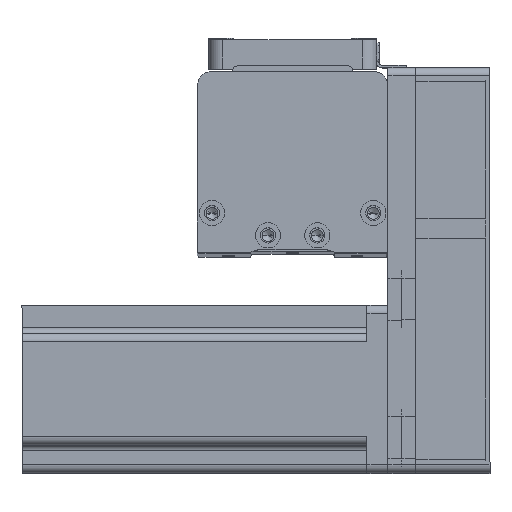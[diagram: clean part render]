
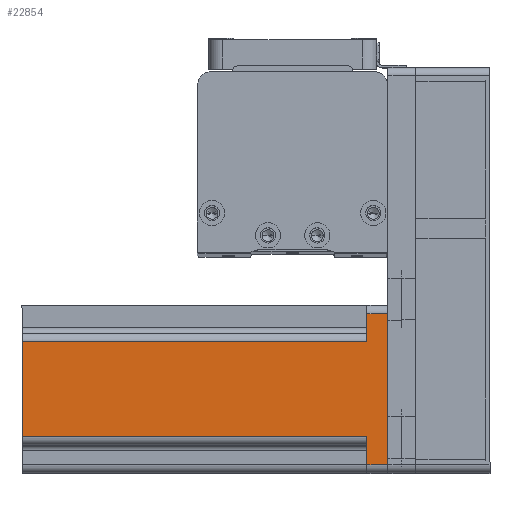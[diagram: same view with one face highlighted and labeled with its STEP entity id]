
A CAD part, top view. The second image highlights one B-rep face of the part: STEP entity #22854.
In plain terms, the highlighted planar face has unit normal (0, 0, 1) as drawn and (0, 1, 0) by its records, which use the part's own axes.
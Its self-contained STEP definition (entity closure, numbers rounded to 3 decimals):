
#360 = LINE ( 'NONE', #29218, #17858 ) ;
#1372 = ORIENTED_EDGE ( 'NONE', *, *, #12371, .T. ) ;
#1435 = DIRECTION ( 'NONE',  ( 0., 0., -1. ) ) ;
#2501 = ORIENTED_EDGE ( 'NONE', *, *, #19228, .T. ) ;
#3364 = CARTESIAN_POINT ( 'NONE',  ( 17., 30., 130.7 ) ) ;
#3394 = CARTESIAN_POINT ( 'NONE',  ( -17., 30., 130.7 ) ) ;
#4363 = VECTOR ( 'NONE', #1435, 1000. ) ;
#4590 = LINE ( 'NONE', #23843, #16083 ) ;
#4841 = ORIENTED_EDGE ( 'NONE', *, *, #13524, .T. ) ;
#5235 = DIRECTION ( 'NONE',  ( 0., 0., -1. ) ) ;
#5753 = VERTEX_POINT ( 'NONE', #19923 ) ;
#6892 = LINE ( 'NONE', #24433, #25502 ) ;
#8536 = EDGE_CURVE ( 'NONE', #5753, #37039, #6892, .T. ) ;
#8602 = VERTEX_POINT ( 'NONE', #31982 ) ;
#8727 = FACE_OUTER_BOUND ( 'NONE', #31882, .T. ) ;
#9214 = VERTEX_POINT ( 'NONE', #31335 ) ;
#9818 = DIRECTION ( 'NONE',  ( -1., 0., 0. ) ) ;
#10574 = DIRECTION ( 'NONE',  ( 1., 0., 0. ) ) ;
#10890 = EDGE_CURVE ( 'NONE', #38484, #31615, #24018, .T. ) ;
#11265 = VERTEX_POINT ( 'NONE', #3394 ) ;
#12314 = CARTESIAN_POINT ( 'NONE',  ( -17., 30., 7.5 ) ) ;
#12371 = EDGE_CURVE ( 'NONE', #37039, #11265, #360, .T. ) ;
#12429 = CARTESIAN_POINT ( 'NONE',  ( 27., 30., 130.7 ) ) ;
#13063 = ORIENTED_EDGE ( 'NONE', *, *, #36503, .F. ) ;
#13524 = EDGE_CURVE ( 'NONE', #8602, #9214, #19352, .T. ) ;
#13979 = CARTESIAN_POINT ( 'NONE',  ( 30., 30., 0. ) ) ;
#14009 = EDGE_CURVE ( 'NONE', #38484, #11265, #4590, .T. ) ;
#14195 = ORIENTED_EDGE ( 'NONE', *, *, #14009, .F. ) ;
#15132 = VECTOR ( 'NONE', #5235, 1000. ) ;
#16083 = VECTOR ( 'NONE', #9818, 1000. ) ;
#16366 = CARTESIAN_POINT ( 'NONE',  ( 17., 30., 7.5 ) ) ;
#17858 = VECTOR ( 'NONE', #36264, 1000. ) ;
#19228 = EDGE_CURVE ( 'NONE', #30318, #8602, #24412, .T. ) ;
#19352 = LINE ( 'NONE', #13979, #28730 ) ;
#19923 = CARTESIAN_POINT ( 'NONE',  ( -27., 30., 7.5 ) ) ;
#19979 = ORIENTED_EDGE ( 'NONE', *, *, #10890, .T. ) ;
#20081 = CARTESIAN_POINT ( 'NONE',  ( 30., 30., 130.7 ) ) ;
#21939 = LINE ( 'NONE', #40570, #30228 ) ;
#22351 = CARTESIAN_POINT ( 'NONE',  ( 17., 30., 130.7 ) ) ;
#22854 = ADVANCED_FACE ( 'NONE', ( #8727 ), #26861, .F. ) ;
#23031 = CARTESIAN_POINT ( 'NONE',  ( 27., 30., 7.5 ) ) ;
#23218 = DIRECTION ( 'NONE',  ( 0., 0., 1. ) ) ;
#23580 = DIRECTION ( 'NONE',  ( 1., 0., 0. ) ) ;
#23843 = CARTESIAN_POINT ( 'NONE',  ( 30., 30., 130.7 ) ) ;
#24018 = LINE ( 'NONE', #22351, #4363 ) ;
#24412 = LINE ( 'NONE', #12429, #15132 ) ;
#24433 = CARTESIAN_POINT ( 'NONE',  ( -20., 30., 7.5 ) ) ;
#25502 = VECTOR ( 'NONE', #10574, 1000. ) ;
#26861 = PLANE ( 'NONE',  #31379 ) ;
#26945 = CARTESIAN_POINT ( 'NONE',  ( -27., 30., 130.7 ) ) ;
#28730 = VECTOR ( 'NONE', #34988, 1000. ) ;
#29218 = CARTESIAN_POINT ( 'NONE',  ( -17., 30., 130.7 ) ) ;
#29814 = EDGE_CURVE ( 'NONE', #9214, #5753, #40540, .T. ) ;
#30228 = VECTOR ( 'NONE', #44068, 1000. ) ;
#30318 = VERTEX_POINT ( 'NONE', #23031 ) ;
#31335 = CARTESIAN_POINT ( 'NONE',  ( -27., 30., 0. ) ) ;
#31379 = AXIS2_PLACEMENT_3D ( 'NONE', #20081, #44621, #23580 ) ;
#31615 = VERTEX_POINT ( 'NONE', #16366 ) ;
#31871 = ORIENTED_EDGE ( 'NONE', *, *, #29814, .T. ) ;
#31882 = EDGE_LOOP ( 'NONE', ( #35340, #1372, #14195, #19979, #13063, #2501, #4841, #31871 ) ) ;
#31982 = CARTESIAN_POINT ( 'NONE',  ( 27., 30., 0. ) ) ;
#34988 = DIRECTION ( 'NONE',  ( -1., 0., 0. ) ) ;
#35340 = ORIENTED_EDGE ( 'NONE', *, *, #8536, .T. ) ;
#36264 = DIRECTION ( 'NONE',  ( 0., 0., 1. ) ) ;
#36503 = EDGE_CURVE ( 'NONE', #30318, #31615, #21939, .T. ) ;
#37039 = VERTEX_POINT ( 'NONE', #12314 ) ;
#38484 = VERTEX_POINT ( 'NONE', #3364 ) ;
#39436 = VECTOR ( 'NONE', #23218, 1000. ) ;
#40540 = LINE ( 'NONE', #26945, #39436 ) ;
#40570 = CARTESIAN_POINT ( 'NONE',  ( 20., 30., 7.5 ) ) ;
#44068 = DIRECTION ( 'NONE',  ( -1., 0., 0. ) ) ;
#44621 = DIRECTION ( 'NONE',  ( 0., -1., 0. ) ) ;
